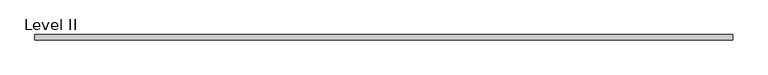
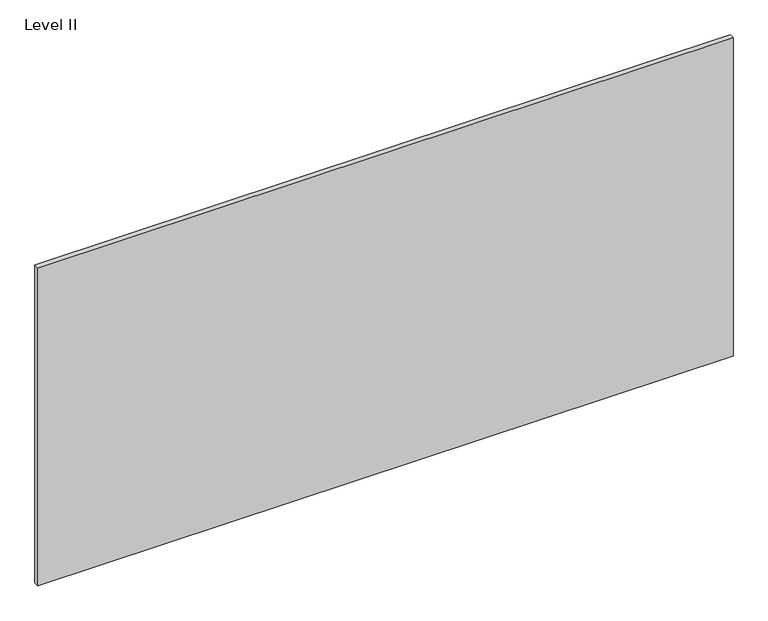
"""IFC4 building model written with IfcOpenShell, lengths in millimetres: proxy geometry, Panel-Fascia-Teknion-Altos-Landscape : Level II."""

from ifc_helpers import new_model, si_unit, frame, origin, place, context, project, spatial, polyline, outline, extrude, source, transform, mapped, element, save


def level_ii_e725a0b5(model_context):
    return source(origin(), model_context, "Body", "SweptSolid", [
        extrude(outline(polyline([(1252.8407125, -9.525), (-1252.8407125, -9.525), (-1252.8407125, 9.525), (1252.8407125, 9.525), (1252.8407125, -9.525)])), frame((0.0, 0.0, 3.175), z_axis=(0.0, 0.0, 1.0), x_axis=(1.0, 0.0, 0.0)), (0.0, 0.0, 1.0), 1212.85),
    ])


if __name__ == "__main__":
    model = new_model("IFC4")
    model_context = context("Model", 3, world=origin())
    ifc_project = project(units=[si_unit("LENGTHUNIT", "METRE", prefix="MILLI")], contexts=[model_context])
    site = spatial("IfcSite", under=ifc_project)
    building = spatial("IfcBuilding", under=site)
    placement = place(None, origin())
    level_ii_shape = level_ii_e725a0b5(model_context)
    element("IfcBuildingElementProxy", 1, Name="Panel-Fascia-Teknion-Altos-Landscape : Level II", ObjectType="Panel-Fascia-Teknion-Altos-Landscape : Level II", at=placement, inside=building, context=model_context, shape_type="MappedRepresentation", body=[
        mapped(level_ii_shape, transform((0.0, 0.0, 0.0), x_axis=(1.0, 0.0, 0.0), y_axis=(0.0, 1.0, 0.0), z_axis=(0.0, 0.0, 1.0))),
    ])
    save(model, "model.ifc")
